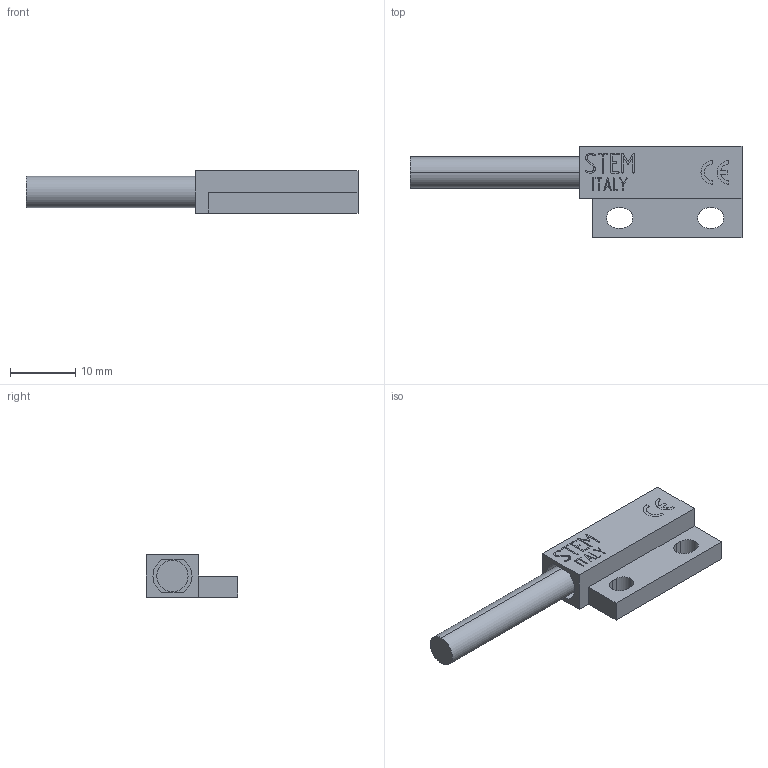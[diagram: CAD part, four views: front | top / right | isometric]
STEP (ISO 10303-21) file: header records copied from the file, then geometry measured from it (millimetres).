
FILE_DESCRIPTION (( 'STEP AP214' ), '1' );
FILE_NAME ('E545 Semplificato.STEP', '2019-11-21T09:10:24', ( '' ), ( '' ), 'SwSTEP 2.0', 'SolidWorks 2019', '' );
FILE_SCHEMA (( 'AUTOMOTIVE_DESIGN' ));
Length unit declared in the file: millimetre
Products named in the file (1): E545 Semplificato
Bounding box: 51 x 14 x 6.5 mm (x, y, z)
Volume: 1955.5 mm3; surface area: 2373.8 mm2
Topology: 1 solids, 1 shells, 178 faces, 486 edges, 324 vertices
Faces by surface type: plane 90, bspline 53, cylinder 35
Entity records: 7825 total; most frequent: CARTESIAN_POINT 1640, ORIENTED_EDGE 972, DIRECTION 701, EDGE_CURVE 486, VERTEX_POINT 324, VECTOR 309, LINE 309, AXIS2_PLACEMENT_3D 196
